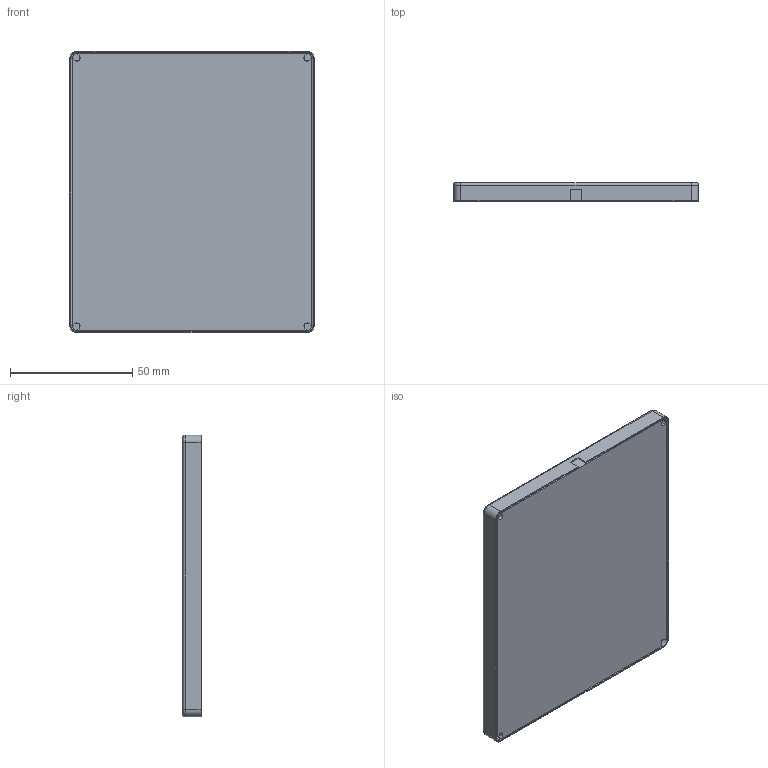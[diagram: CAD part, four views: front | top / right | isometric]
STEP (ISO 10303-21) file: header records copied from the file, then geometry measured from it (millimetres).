
FILE_DESCRIPTION (( 'STEP AP203' ), '1' );
FILE_NAME ('Horizon Pro.STEP', '2022-07-20T12:21:43', ( '' ), ( '' ), 'SwSTEP 2.0', 'SolidWorks 2020', '' );
FILE_SCHEMA (( 'CONFIG_CONTROL_DESIGN' ));
Length unit declared in the file: millimetre
Products named in the file (3): Horizon Pro; Horizon Triotone - Body_Warm White; Horizon Triotone - Bezel
Assembly tree (2 placements, depth 2):
  Horizon Pro
    Horizon Triotone - Body_Warm White
    Horizon Triotone - Bezel
Bounding box: 100 x 7.5 x 115 mm (x, y, z)
Volume: 75799.1 mm3; surface area: 50232.3 mm2
Topology: 12 solids, 12 shells, 321 faces, 782 edges, 514 vertices
Faces by surface type: plane 215, cylinder 98, torus 8
Entity records: 9673 total; most frequent: DIRECTION 1638, CARTESIAN_POINT 1622, ORIENTED_EDGE 1564, EDGE_CURVE 782, VECTOR 578, LINE 578, AXIS2_PLACEMENT_3D 530, VERTEX_POINT 514
